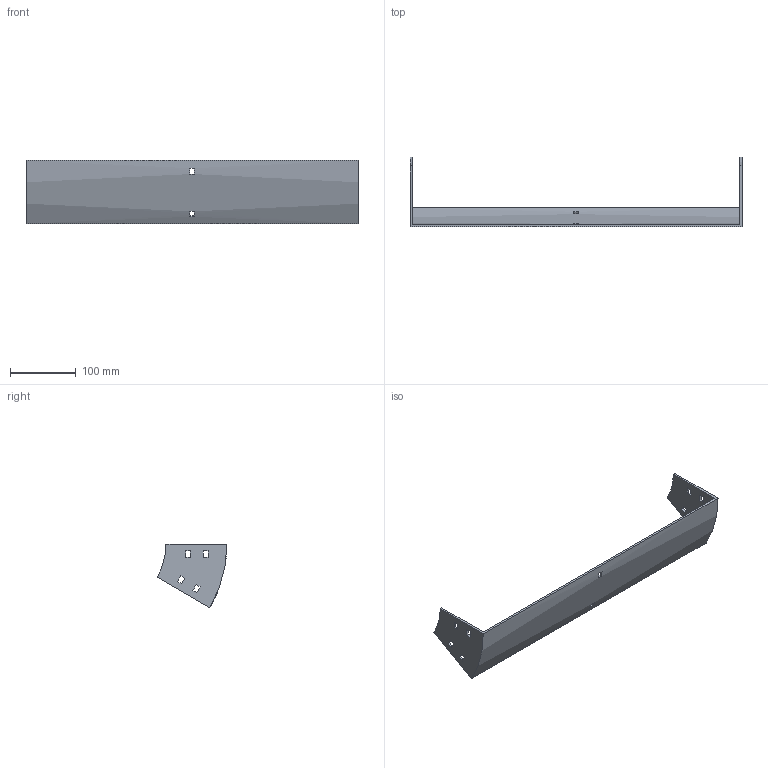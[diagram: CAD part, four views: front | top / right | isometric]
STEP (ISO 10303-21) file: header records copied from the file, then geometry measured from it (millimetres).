
FILE_DESCRIPTION (( 'STEP AP214' ), '1' );
FILE_NAME ('32B1I500.step', '2025-02-21T09:45:25', ( '' ), ( '' ), 'SwSTEP 2.0', 'SolidWorks 2023', '' );
FILE_SCHEMA (( 'AUTOMOTIVE_DESIGN' ));
Length unit declared in the file: millimetre
Products named in the file (1): 32B1I500
Bounding box: 504 x 105.9 x 96.25 mm (x, y, z)
Volume: 220947.2 mm3; surface area: 132572.3 mm2
Topology: 1 solids, 1 shells, 50 faces, 144 edges, 96 vertices
Faces by surface type: plane 46, cylinder 4
Entity records: 1687 total; most frequent: CARTESIAN_POINT 291, ORIENTED_EDGE 288, DIRECTION 262, EDGE_CURVE 144, VECTOR 128, LINE 128, VERTEX_POINT 96, EDGE_LOOP 70
